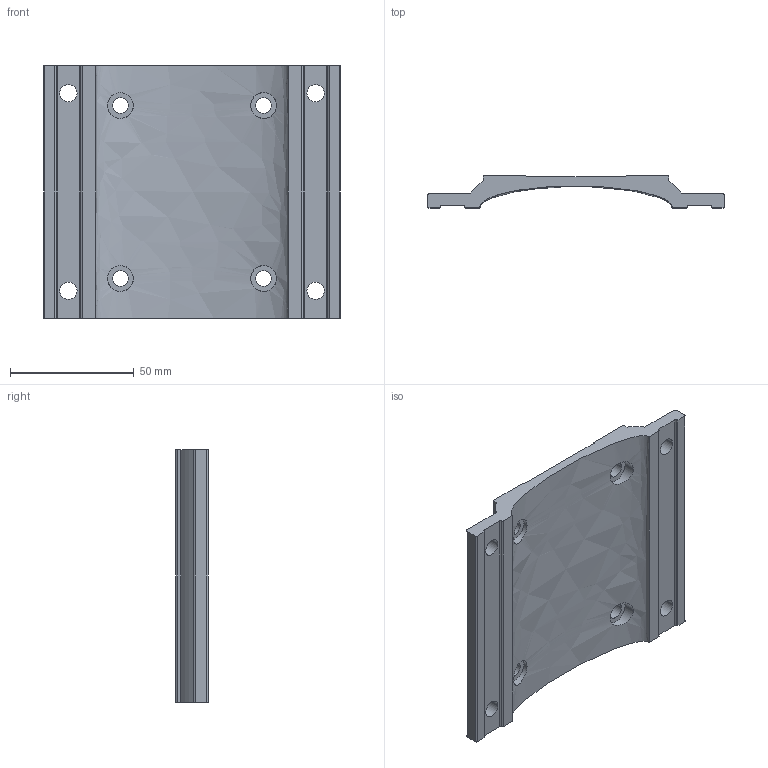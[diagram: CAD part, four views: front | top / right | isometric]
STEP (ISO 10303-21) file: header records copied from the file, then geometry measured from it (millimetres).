
FILE_DESCRIPTION (( 'STEP AP214' ), '1' );
FILE_NAME ('Fuß IG90 2174022.STEP', '2017-08-18T05:30:08', ( 'gfeller' ), ( '' ), 'SwSTEP 2.0', 'SolidWorks 2017', '' );
FILE_SCHEMA (( 'AUTOMOTIVE_DESIGN' ));
Length unit declared in the file: millimetre
Products named in the file (1): Fuß IG90 2174022
Bounding box: 120 x 13 x 102 mm (x, y, z)
Volume: 67040.1 mm3; surface area: 29119.8 mm2
Topology: 1 solids, 1 shells, 64 faces, 174 edges, 116 vertices
Faces by surface type: cylinder 42, plane 21, bspline 1
Entity records: 2417 total; most frequent: CARTESIAN_POINT 678, DIRECTION 368, ORIENTED_EDGE 348, EDGE_CURVE 174, AXIS2_PLACEMENT_3D 140, VERTEX_POINT 116, VECTOR 88, LINE 88
